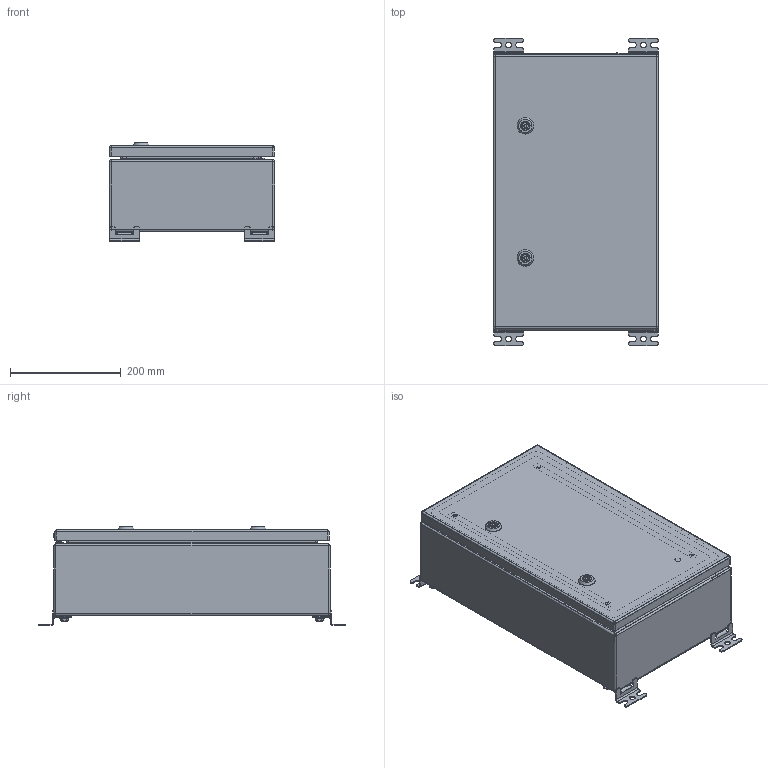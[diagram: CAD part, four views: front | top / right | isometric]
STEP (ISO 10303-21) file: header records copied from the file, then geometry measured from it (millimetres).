
FILE_DESCRIPTION(('STEP AP242'), '1');
FILE_NAME('400 ﾙﾌﾏ-1 (IP-56)', '', ('UNSPECIFIED'), ('UNSPECIFIED'), 'C3D Converter', 'C3D Toolkit', '');
FILE_SCHEMA(('AP242_MANAGED_MODEL_BASED_3D_ENGINEERING_MIM_LF { 1 0 10303 442 1 1 4 }'));
Length unit declared in the file: millimetre
Products named in the file (47): ЩМП-1-Ф СБ; 410-Ф; 420; 421; 411-Ф; 412; 490; 491; 401.01; 440-Ф; 441-Ф; 402; 450; 451; ЦИУЛ.210677.00.03-03; 452
Assembly tree (100 placements, depth 4):
  ЩМП-1-Ф СБ
    410-Ф
      420
        421
        (unnamed)  x4
        (unnamed)
      411-Ф
      412
    490  x2
      491
      (unnamed)
      (unnamed)
      (unnamed)
      (unnamed)
      (unnamed)
    490  x2
      491
      (unnamed)
      (unnamed)
      (unnamed)
      (unnamed)
      (unnamed)
    401.01
    (unnamed)  x4
    (unnamed)  x4
    (unnamed)  x4
    (unnamed)  x4
    (unnamed)  x2
      (unnamed)
      (unnamed)
      (unnamed)
    (unnamed)  x4
    440-Ф
      441-Ф
      (unnamed)
      (unnamed)  x4
      (unnamed)  x2
    402  x2
    (unnamed)  x4
    (unnamed)  x4
    (unnamed)  x2
      (unnamed)
      (unnamed)
      (unnamed)
      (unnamed)
      (unnamed)
    (unnamed)  x2
    450
      451
      (unnamed)  x3
      (unnamed)  x2
      (unnamed)  x2
      (unnamed)  x3
      ЦИУЛ.210677.00.03-03
      452
      (unnamed)
      (unnamed)  x2
Bounding box: 300 x 556 x 178.1 mm (x, y, z)
Volume: 1390184.6 mm3; surface area: 1647605.7 mm2
Topology: 112 solids, 112 shells, 2374 faces, 5712 edges, 3618 vertices
Faces by surface type: plane 1330, cylinder 671, cone 227, extrusion 54, bspline 32, sphere 31, torus 29
Full cylindrical faces by diameter (mm): 0.5 x4, 2.6 x8, 3.3 x1, 3.5 x60, 4 x1, 4.134 x3, 4.2 x5, 4.917 x4, 5 x9, 5.3 x2, 5.5 x11, 5.75 x3, 5.8 x2, 6 x18, 6.4 x4, 6.647 x8, 7 x6, 7.3 x4, 7.4 x1, 7.5 x6, 8 x14, 8.376 x4, 8.4 x8, 8.5 x19, 9 x12, 10 x10, 10.4 x2, 10.5 x6, 11 x4, 11.4 x1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
Entity records: 69029 total; most frequent: CARTESIAN_POINT 36198, DIRECTION 5400, ORIENTED_EDGE 5252, EDGE_CURVE 2626, AXIS2_PLACEMENT_3D 1955, VERTEX_POINT 1760, VECTOR 1490, EDGE_LOOP 1482
